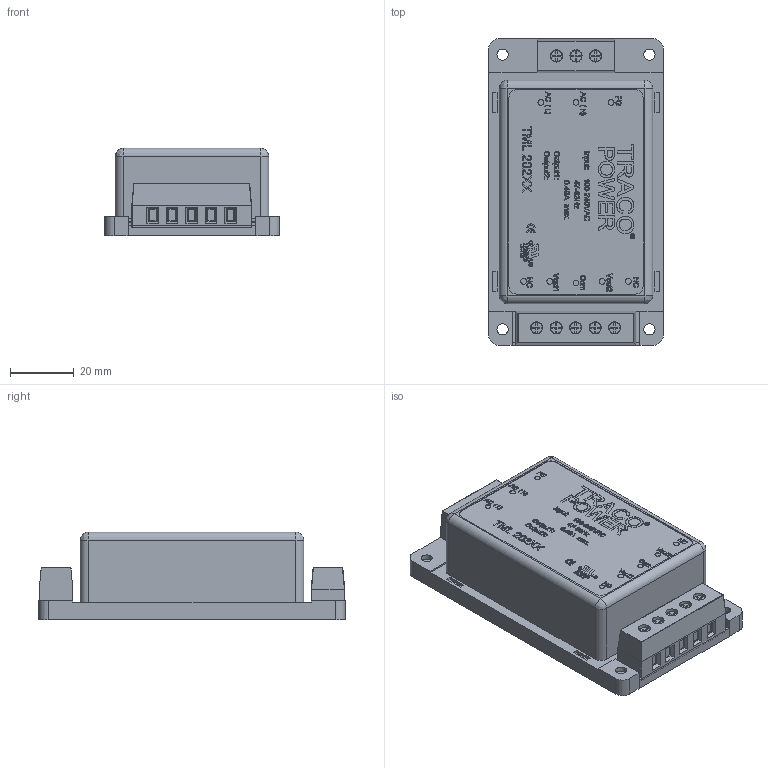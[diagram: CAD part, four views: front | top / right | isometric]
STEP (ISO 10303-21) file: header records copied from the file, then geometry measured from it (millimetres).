
FILE_DESCRIPTION (( 'STEP AP214' ), '1' );
FILE_NAME ('tml20c-dual.STEP', '2015-02-20T08:07:58', ( '' ), ( '' ), 'SwSTEP 2.0', 'SolidWorks 2013', '' );
FILE_SCHEMA (( 'AUTOMOTIVE_DESIGN' ));
Length unit declared in the file: millimetre
Products named in the file (10): TML20 T_1; TML20 B_1; TML20 ST_1; tml20c_dual; TMLST PCB_1; TM15ST B_1; TM15ST T_1; tml20c-dual; TML20_1
Assembly tree (9 placements, depth 3):
  tml20c-dual
    TML20 ST_1
      TM15ST T_1
      tml20c_dual
      TM15ST B_1
      TMLST PCB_1
      tml20c_dual
    TML20_1
      TML20 B_1
      TML20 T_1
Bounding box: 54.6 x 95.9 x 27.5 mm (x, y, z)
Volume: 37297.2 mm3; surface area: 59743.5 mm2
Topology: 15 solids, 15 shells, 2223 faces, 5914 edges, 3915 vertices
Faces by surface type: plane 1411, bspline 569, cylinder 234, torus 9
Entity records: 142670 total; most frequent: CARTESIAN_POINT 66004, ORIENTED_EDGE 11804, DIRECTION 8501, EDGE_CURVE 5902, LINE 4281, VECTOR 4281, VERTEX_POINT 3915, EDGE_LOOP 2483
